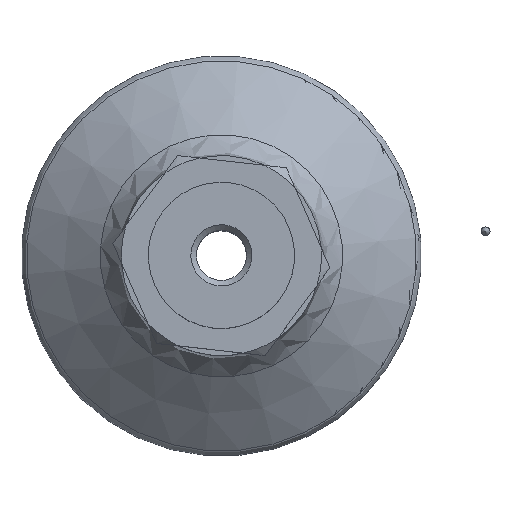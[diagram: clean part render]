
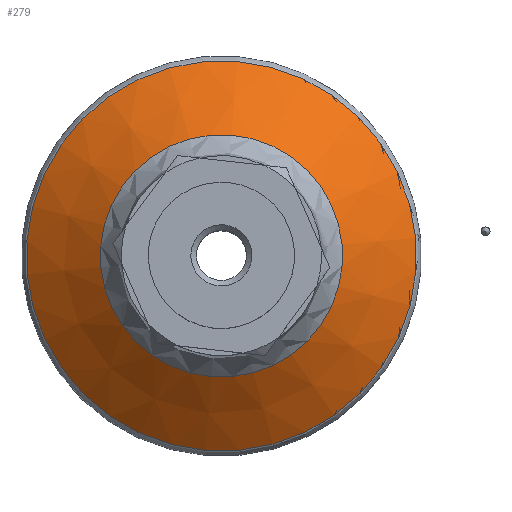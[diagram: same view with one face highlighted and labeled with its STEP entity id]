
A CAD part, top view. The second image highlights one B-rep face of the part: STEP entity #279.
In plain terms, the highlighted conical face has half-angle 51.622 degrees and reference radius 17.545 mm.
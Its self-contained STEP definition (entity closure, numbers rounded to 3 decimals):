
#279=ADVANCED_FACE('',(#536,#537),#538,.T.);
#536=FACE_OUTER_BOUND('',#774,.T.);
#537=FACE_BOUND('',#775,.T.);
#538=CONICAL_SURFACE('',#776,17.545,0.901);
#774=EDGE_LOOP('',(#1252));
#775=EDGE_LOOP('',(#1253));
#776=AXIS2_PLACEMENT_3D('',#1254,#1255,#1256);
#1252=ORIENTED_EDGE('',*,*,#1385,.T.);
#1253=ORIENTED_EDGE('',*,*,#1388,.T.);
#1254=CARTESIAN_POINT('',(0.0,0.,10.245));
#1255=DIRECTION('',(0.0,0.,-1.0));
#1256=DIRECTION('',(0.0,1.0,0.));
#1385=EDGE_CURVE('',#1583,#1583,#1584,.F.);
#1388=EDGE_CURVE('',#1588,#1588,#1589,.T.);
#1583=VERTEX_POINT('',#1991);
#1584=CIRCLE('',#1992,17.545);
#1588=VERTEX_POINT('',#1996);
#1589=CIRCLE('',#1997,10.895);
#1991=CARTESIAN_POINT('',(17.545,0.,10.245));
#1992=AXIS2_PLACEMENT_3D('',#2152,#2153,#2154);
#1996=CARTESIAN_POINT('',(10.895,0.,15.512));
#1997=AXIS2_PLACEMENT_3D('',#2158,#2159,#2160);
#2152=CARTESIAN_POINT('',(0.0,0.,10.245));
#2153=DIRECTION('',(0.0,0.,-1.0));
#2154=DIRECTION('',(1.0,0.0,0.0));
#2158=CARTESIAN_POINT('',(0.0,0.,15.512));
#2159=DIRECTION('',(0.,0.,-1.0));
#2160=DIRECTION('',(1.0,0.,0.));
